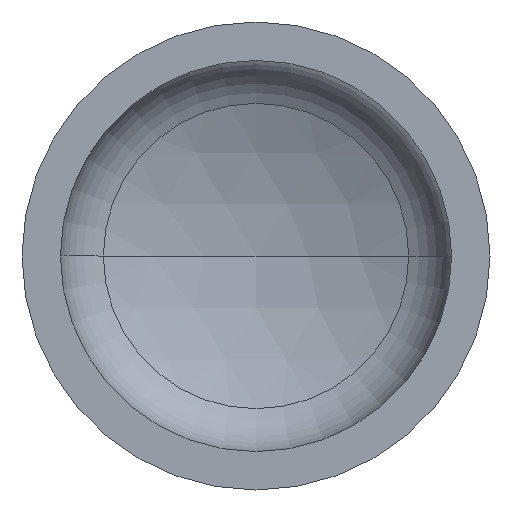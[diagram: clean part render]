
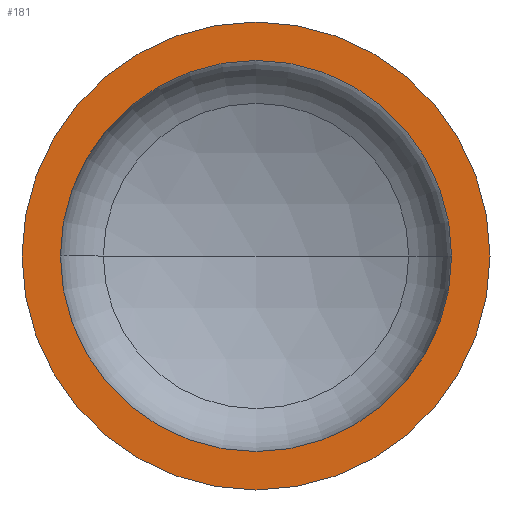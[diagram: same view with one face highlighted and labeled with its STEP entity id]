
A CAD part, front view. The second image highlights one B-rep face of the part: STEP entity #181.
In plain terms, the highlighted planar face has unit normal (0, -1, 0).
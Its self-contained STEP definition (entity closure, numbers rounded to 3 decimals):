
#23 = AXIS2_PLACEMENT_3D ( 'NONE', #144, #250, #81 ) ;
#27 = ORIENTED_EDGE ( 'NONE', *, *, #409, .F. ) ;
#37 = AXIS2_PLACEMENT_3D ( 'NONE', #348, #270, #268 ) ;
#38 = AXIS2_PLACEMENT_3D ( 'NONE', #321, #318, #315 ) ;
#44 = AXIS2_PLACEMENT_3D ( 'NONE', #189, #188, #186 ) ;
#49 = EDGE_CURVE ( 'NONE', #337, #211, #322, .T. ) ;
#63 = EDGE_CURVE ( 'NONE', #211, #337, #365, .T. ) ;
#65 = EDGE_CURVE ( 'NONE', #165, #286, #285, .T. ) ;
#73 = DIRECTION ( 'NONE',  ( 0., -1., 0. ) ) ;
#76 = DIRECTION ( 'NONE',  ( 1., 0., 0. ) ) ;
#81 = DIRECTION ( 'NONE',  ( -1., 0., 0. ) ) ;
#83 = CARTESIAN_POINT ( 'NONE',  ( 500., 0., 0. ) ) ;
#122 = PLANE ( 'NONE',  #23 ) ;
#126 = FACE_OUTER_BOUND ( 'NONE', #397, .T. ) ;
#128 = CARTESIAN_POINT ( 'NONE',  ( 418., 0., 0. ) ) ;
#144 = CARTESIAN_POINT ( 'NONE',  ( -500., 0., 0. ) ) ;
#155 = CARTESIAN_POINT ( 'NONE',  ( -418., 0., 0. ) ) ;
#165 = VERTEX_POINT ( 'NONE', #128 ) ;
#181 = ADVANCED_FACE ( 'NONE', ( #349, #126 ), #122, .F. ) ;
#186 = DIRECTION ( 'NONE',  ( 1., 0., 0. ) ) ;
#188 = DIRECTION ( 'NONE',  ( 0., -1., 0. ) ) ;
#189 = CARTESIAN_POINT ( 'NONE',  ( 0., 0., 0. ) ) ;
#211 = VERTEX_POINT ( 'NONE', #284 ) ;
#228 = AXIS2_PLACEMENT_3D ( 'NONE', #289, #73, #76 ) ;
#250 = DIRECTION ( 'NONE',  ( 0., 1., 0. ) ) ;
#254 = ORIENTED_EDGE ( 'NONE', *, *, #65, .F. ) ;
#268 = DIRECTION ( 'NONE',  ( 1., 0., 0. ) ) ;
#270 = DIRECTION ( 'NONE',  ( 0., -1., 0. ) ) ;
#284 = CARTESIAN_POINT ( 'NONE',  ( -500., 0., 0. ) ) ;
#285 = CIRCLE ( 'NONE', #37, 418. ) ;
#286 = VERTEX_POINT ( 'NONE', #155 ) ;
#289 = CARTESIAN_POINT ( 'NONE',  ( 0., 0., 0. ) ) ;
#315 = DIRECTION ( 'NONE',  ( 1., 0., 0. ) ) ;
#318 = DIRECTION ( 'NONE',  ( 0., -1., 0. ) ) ;
#321 = CARTESIAN_POINT ( 'NONE',  ( 0., 0., 0. ) ) ;
#322 = CIRCLE ( 'NONE', #44, 500. ) ;
#337 = VERTEX_POINT ( 'NONE', #83 ) ;
#348 = CARTESIAN_POINT ( 'NONE',  ( 0., 0., 0. ) ) ;
#349 = FACE_BOUND ( 'NONE', #363, .T. ) ;
#351 = ORIENTED_EDGE ( 'NONE', *, *, #63, .T. ) ;
#362 = CIRCLE ( 'NONE', #228, 418. ) ;
#363 = EDGE_LOOP ( 'NONE', ( #254, #27 ) ) ;
#365 = CIRCLE ( 'NONE', #38, 500. ) ;
#393 = ORIENTED_EDGE ( 'NONE', *, *, #49, .T. ) ;
#397 = EDGE_LOOP ( 'NONE', ( #393, #351 ) ) ;
#409 = EDGE_CURVE ( 'NONE', #286, #165, #362, .T. ) ;
